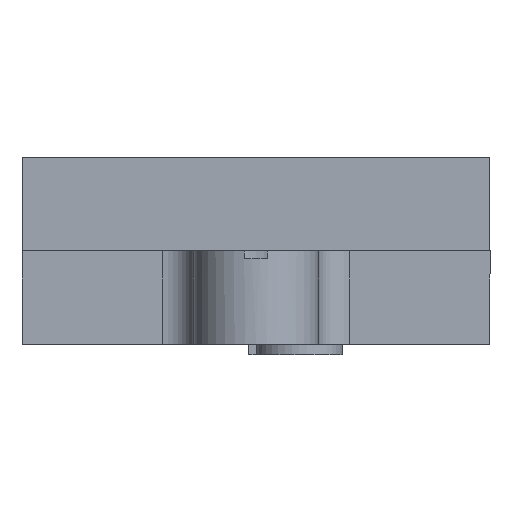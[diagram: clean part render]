
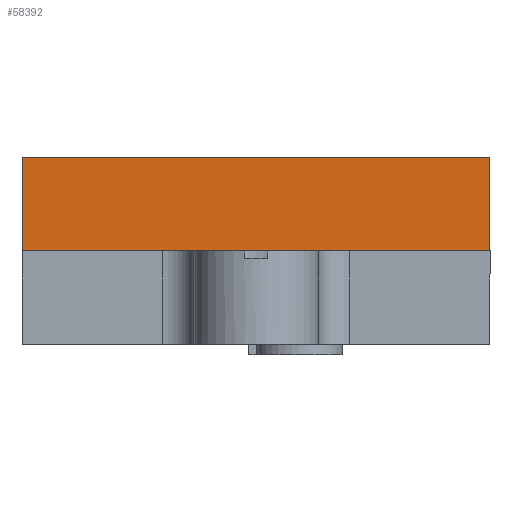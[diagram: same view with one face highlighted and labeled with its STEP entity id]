
A CAD part, left-side view. The second image highlights one B-rep face of the part: STEP entity #58392.
In plain terms, the highlighted planar face has unit normal (-1, 0, 0).
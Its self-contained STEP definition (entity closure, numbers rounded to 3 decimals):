
#8379=FACE_OUTER_BOUND('',#11958,.T.);
#11958=EDGE_LOOP('',(#52998,#52999,#53000,#53001));
#17655=LINE('',#104666,#23190);
#17656=LINE('',#104669,#23191);
#17657=LINE('',#104671,#23192);
#17658=LINE('',#104672,#23193);
#23190=VECTOR('',#76556,10.);
#23191=VECTOR('',#76559,10.);
#23192=VECTOR('',#76560,10.);
#23193=VECTOR('',#76561,10.);
#28632=VERTEX_POINT('',#104662);
#28633=VERTEX_POINT('',#104664);
#28634=VERTEX_POINT('',#104668);
#28635=VERTEX_POINT('',#104670);
#36803=EDGE_CURVE('',#28632,#28633,#17655,.T.);
#36804=EDGE_CURVE('',#28632,#28634,#17656,.T.);
#36805=EDGE_CURVE('',#28635,#28633,#17657,.T.);
#36806=EDGE_CURVE('',#28634,#28635,#17658,.T.);
#52998=ORIENTED_EDGE('',*,*,#36804,.F.);
#52999=ORIENTED_EDGE('',*,*,#36803,.T.);
#53000=ORIENTED_EDGE('',*,*,#36805,.F.);
#53001=ORIENTED_EDGE('',*,*,#36806,.F.);
#55259=PLANE('',#62706);
#58392=ADVANCED_FACE('',(#8379),#55259,.T.);
#62706=AXIS2_PLACEMENT_3D('',#104667,#76557,#76558);
#76556=DIRECTION('',(0.,-1.,0.));
#76557=DIRECTION('center_axis',(-1.,0.,0.));
#76558=DIRECTION('ref_axis',(0.,0.,-1.));
#76559=DIRECTION('',(0.,0.,1.));
#76560=DIRECTION('',(0.,0.,-1.));
#76561=DIRECTION('',(0.,-1.,0.));
#104662=CARTESIAN_POINT('',(0.,0.,0.));
#104664=CARTESIAN_POINT('',(0.,-6.,0.));
#104666=CARTESIAN_POINT('',(0.,0.,0.));
#104667=CARTESIAN_POINT('Origin',(0.,0.,30.));
#104668=CARTESIAN_POINT('',(0.,0.,30.));
#104669=CARTESIAN_POINT('',(0.,0.,0.));
#104670=CARTESIAN_POINT('',(0.,-6.,30.));
#104671=CARTESIAN_POINT('',(0.,-6.,0.));
#104672=CARTESIAN_POINT('',(0.,0.,30.));
